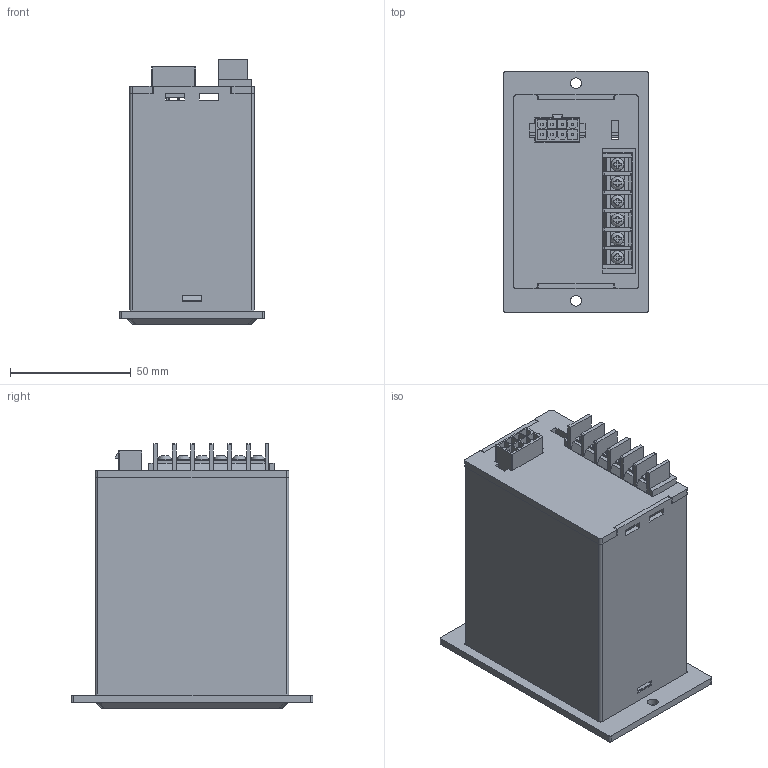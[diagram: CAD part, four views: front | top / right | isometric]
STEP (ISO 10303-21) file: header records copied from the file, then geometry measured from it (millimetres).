
FILE_DESCRIPTION((''),'2;1');
FILE_NAME('D:\yang\Yang cw\SPG 업무\2. DC MOTOR\7. DC MOTOR 브로슈어\SPEED CONTROLLER\Imported Components\SUD COTROL BOX\SUD COTROL BOX.stp','2015-03-25T10:56:41',('ycw1227'),(''),'Autodesk Inventor 2013','Autodesk Inventor 2013','');
FILE_SCHEMA(('AUTOMOTIVE_DESIGN { 1 0 10303 214 1 1 1 1 }'));
Length unit declared in the file: millimetre
Products named in the file (1): 부품30
Bounding box: 60 x 100 x 109.5 mm (x, y, z)
Volume: 76432.5 mm3; surface area: 79526.3 mm2
Topology: 3 solids, 5 shells, 2073 faces, 5652 edges, 3734 vertices
Faces by surface type: plane 1428, bspline 473, cylinder 154, cone 14, torus 4
Full cylindrical faces by diameter (mm): 3 x6, 3.664 x1, 4 x1, 4.465 x6, 4.5 x2, 4.565 x6, 5.4 x6
Entity records: 68194 total; most frequent: CARTESIAN_POINT 18180, ORIENTED_EDGE 11230, DIRECTION 8150, EDGE_CURVE 5615, VECTOR 4230, LINE 4230, VERTEX_POINT 3732, EDGE_LOOP 2323
